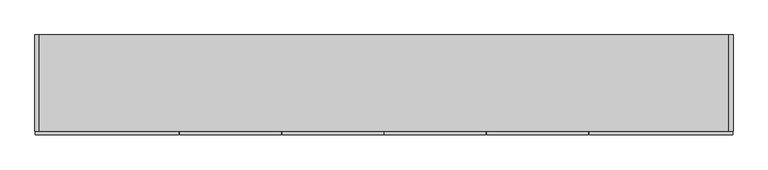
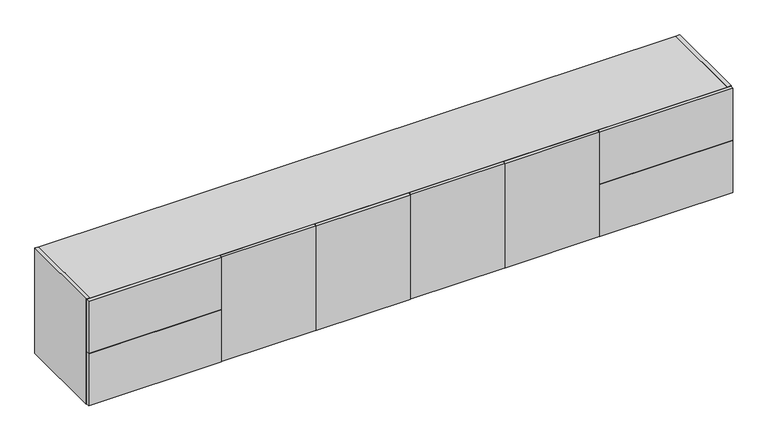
"""IFC4 building model written with IfcOpenShell, lengths in millimetres: furniture geometry, MUEBLES FLOTANTE SALA 1 3000 : MUEBLES FLOTANTE SALA 1 3000."""

from ifc_helpers import new_model, si_unit, frame, origin, place, context, project, spatial, polyline, outline, extrude, source, transform, mapped, element, save


def furniture_74854ae5(model_context):
    return source(origin(), model_context, "Body", "SweptSolid", [
        extrude(outline(polyline([(-851.5, -415.0), (-1448.5, -415.0), (-1448.5, -400.0), (-851.5, -400.0), (-851.5, -415.0)])), frame((0.0, 0.0, 351.5), z_axis=(0.0, 0.0, 1.0), x_axis=(1.0, 0.0, 0.0)), (0.0, 0.0, 1.0), 247.0),
        extrude(outline(polyline([(-851.5, -415.0), (-1448.5, -415.0), (-1448.5, -400.0), (-851.5, -400.0), (-851.5, -415.0)])), frame((0.0, 0.0, 101.5), z_axis=(0.0, 0.0, 1.0), x_axis=(1.0, 0.0, 0.0)), (0.0, 0.0, 1.0), 247.0),
        extrude(outline(polyline([(1448.5, -415.0), (851.5, -415.0), (851.5, -400.0), (1448.5, -400.0), (1448.5, -415.0)])), frame((0.0, 0.0, 351.5), z_axis=(0.0, 0.0, 1.0), x_axis=(1.0, 0.0, 0.0)), (0.0, 0.0, 1.0), 247.0),
        extrude(outline(polyline([(1448.5, -415.0), (851.5, -415.0), (851.5, -400.0), (1448.5, -400.0), (1448.5, -415.0)])), frame((0.0, 0.0, 101.5), z_axis=(0.0, 0.0, 1.0), x_axis=(1.0, 0.0, 0.0)), (0.0, 0.0, 1.0), 247.0),
        extrude(outline(polyline([(848.5, -415.0), (426.5, -415.0), (426.5, -400.0), (848.5, -400.0), (848.5, -415.0)])), frame((0.0, 0.0, 101.5), z_axis=(0.0, 0.0, 1.0), x_axis=(1.0, 0.0, 0.0)), (0.0, 0.0, 1.0), 497.0),
        extrude(outline(polyline([(423.5, -415.0), (1.5, -415.0), (1.5, -400.0), (423.5, -400.0), (423.5, -415.0)])), frame((0.0, 0.0, 101.5), z_axis=(0.0, 0.0, 1.0), x_axis=(1.0, 0.0, 0.0)), (0.0, 0.0, 1.0), 497.0),
        extrude(outline(polyline([(-1.5, -415.0), (-423.5, -415.0), (-423.5, -400.0), (-1.5, -400.0), (-1.5, -415.0)])), frame((0.0, 0.0, 101.5), z_axis=(0.0, 0.0, 1.0), x_axis=(1.0, 0.0, 0.0)), (0.0, 0.0, 1.0), 497.0),
        extrude(outline(polyline([(-426.5, -415.0), (-848.5, -415.0), (-848.5, -400.0), (-426.5, -400.0), (-426.5, -415.0)])), frame((0.0, 0.0, 101.5), z_axis=(0.0, 0.0, 1.0), x_axis=(1.0, 0.0, 0.0)), (0.0, 0.0, 1.0), 497.0),
        extrude(outline(polyline([(1432.0, -400.0), (850.0, -400.0), (850.0, 0.0), (1432.0, 0.0), (1432.0, -400.0)])), frame((0.0, 0.0, 341.0), z_axis=(0.0, 0.0, 1.0), x_axis=(1.0, 0.0, 0.0)), (0.0, 0.0, 1.0), 18.0),
        extrude(outline(polyline([(1450.0, -400.0), (1432.0, -400.0), (1432.0, 0.0), (1450.0, 0.0), (1450.0, -400.0)])), frame((0.0, 0.0, 100.0), z_axis=(0.0, 0.0, 1.0), x_axis=(1.0, 0.0, 0.0)), (0.0, 0.0, 1.0), 500.0),
        extrude(outline(polyline([(1432.0, -400.0), (850.0, -400.0), (850.0, 0.0), (1432.0, 0.0), (1432.0, -400.0)])), frame((0.0, 0.0, 100.0), z_axis=(0.0, 0.0, 1.0), x_axis=(1.0, 0.0, 0.0)), (0.0, 0.0, 1.0), 18.0),
        extrude(outline(polyline([(100.0, -850.0), (100.0, 850.0), (582.0, 850.0), (582.0, 1432.0), (600.0, 1432.0), (600.0, -1432.0), (582.0, -1432.0), (582.0, -850.0), (100.0, -850.0)])), frame((0.0, -400.0, 0.0), z_axis=(0.0, 1.0, 0.0), x_axis=(0.0, 0.0, 1.0)), (0.0, 0.0, 1.0), 400.0),
        extrude(outline(polyline([(-850.0, -400.0), (-1432.0, -400.0), (-1432.0, 0.0), (-850.0, 0.0), (-850.0, -400.0)])), frame((0.0, 0.0, 341.0), z_axis=(0.0, 0.0, 1.0), x_axis=(1.0, 0.0, 0.0)), (0.0, 0.0, 1.0), 18.0),
        extrude(outline(polyline([(-1432.0, -400.0), (-1450.0, -400.0), (-1450.0, 0.0), (-1432.0, 0.0), (-1432.0, -400.0)])), frame((0.0, 0.0, 100.0), z_axis=(0.0, 0.0, 1.0), x_axis=(1.0, 0.0, 0.0)), (0.0, 0.0, 1.0), 500.0),
        extrude(outline(polyline([(-850.0, -400.0), (-1432.0, -400.0), (-1432.0, 0.0), (-850.0, 0.0), (-850.0, -400.0)])), frame((0.0, 0.0, 100.0), z_axis=(0.0, 0.0, 1.0), x_axis=(1.0, 0.0, 0.0)), (0.0, 0.0, 1.0), 18.0),
    ])


if __name__ == "__main__":
    model = new_model("IFC4")
    model_context = context("Model", 3, world=origin())
    ifc_project = project(units=[si_unit("LENGTHUNIT", "METRE", prefix="MILLI")], contexts=[model_context])
    site = spatial("IfcSite", under=ifc_project)
    building = spatial("IfcBuilding", under=site)
    placement = place(None, origin())
    furniture_shape = furniture_74854ae5(model_context)
    element("IfcFurniture", 1, ObjectType="MUEBLES FLOTANTE SALA 1 3000 : MUEBLES FLOTANTE SALA 1 3000", at=placement, inside=building, context=model_context, shape_type="MappedRepresentation", body=[
        mapped(furniture_shape, transform((0.0, 0.0, 0.0), x_axis=(1.0, 0.0, 0.0), y_axis=(0.0, 1.0, 0.0), z_axis=(0.0, 0.0, 1.0))),
    ])
    save(model, "model.ifc")
